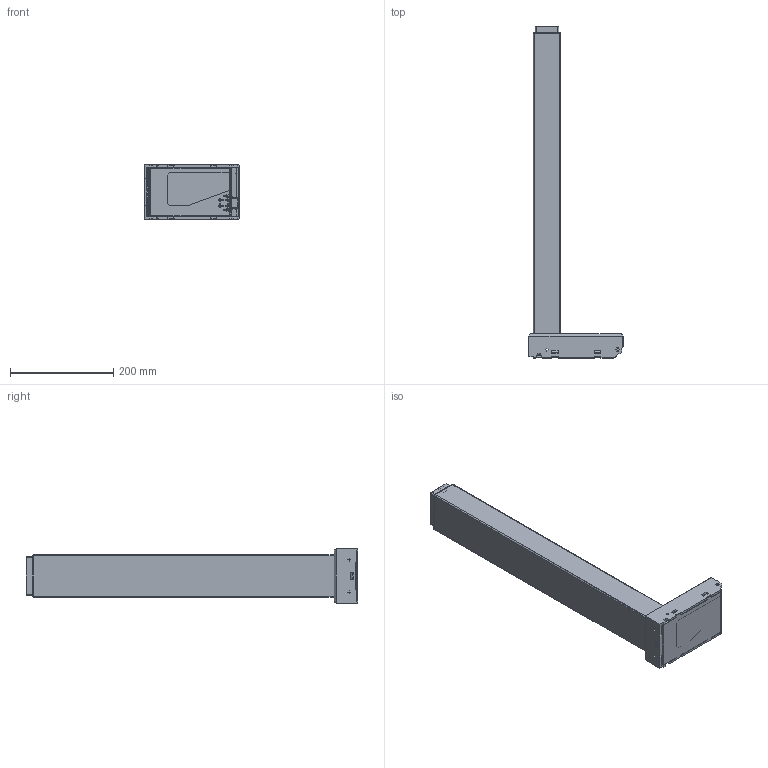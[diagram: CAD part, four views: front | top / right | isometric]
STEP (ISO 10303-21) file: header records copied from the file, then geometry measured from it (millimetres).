
FILE_DESCRIPTION (( 'STEP AP203' ), '1' );
FILE_NAME ('3D_TL32SR.STEP', '2020-08-14T07:15:05', ( '' ), ( '' ), 'SwSTEP 2.0', 'SolidWorks 2015', '' );
FILE_SCHEMA (( 'CONFIG_CONTROL_DESIGN' ));
Length unit declared in the file: millimetre
Products named in the file (13): 三維零件圖-32317-1807-595-中層管烤漆-202004_箇砞<翰钡>; 三維零件圖-32317-1905-630-外層管烤漆-202004; 3D_TL32SR; 三維零件圖-31605-395-塑膠上蓋-E; 三維零件圖-33903-357-16-自攻螺絲-202004; 三維零件圖-33105-085-防擺環-202004; 三維零件圖-32317-1807-595-中層管烤漆-202004
Assembly tree (8 placements, depth 2):
  三維零件圖-32317-1905-630-外層管烤漆-202004
  3D_TL32SR
    三維零件圖-32317-1905-630-外層管烤漆-202004
    三維零件圖-32317-1807-595-中層管烤漆-202004_箇砞<翰钡>
    三維零件圖-31605-395-塑膠上蓋-E
    三維零件圖-33105-085-防擺環-202004
    三維零件圖-33903-357-16-自攻螺絲-202004  x2
  3D_TL32SR
    三維零件圖-33903-357-16-自攻螺絲-202004
    三維零件圖-33903-357-16-自攻螺絲-202004
  三維零件圖-33105-085-防擺環-202004
  三維零件圖-32317-1807-595-中層管烤漆-202004
Bounding box: 183.14 x 644.4 x 108 mm (x, y, z)
Volume: 648907.3 mm3; surface area: 727306.1 mm2
Topology: 15 solids, 15 shells, 1609 faces, 4104 edges, 2457 vertices
Faces by surface type: cylinder 656, plane 612, torus 153, bspline 103, sphere 73, cone 12
Full cylindrical faces by diameter (mm): 2.2 x2, 5 x8, 5.2 x4, 6 x2, 8 x9, 8.4 x2, 12.2 x1, 40 x1
Entity records: 52343 total; most frequent: CARTESIAN_POINT 14092, ORIENTED_EDGE 7826, DIRECTION 7665, EDGE_CURVE 3913, AXIS2_PLACEMENT_3D 2701, VERTEX_POINT 2399, VECTOR 2263, LINE 2263
